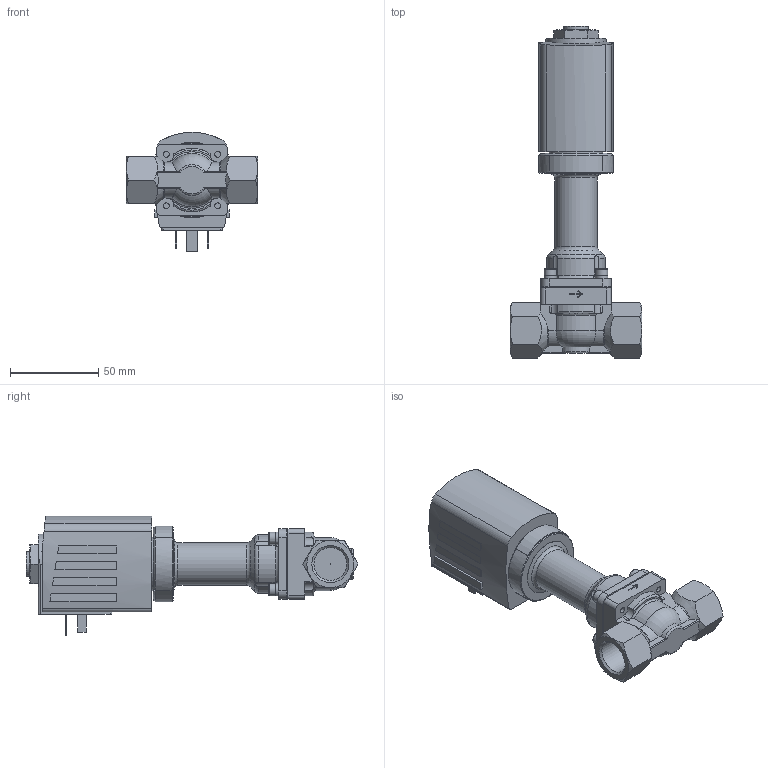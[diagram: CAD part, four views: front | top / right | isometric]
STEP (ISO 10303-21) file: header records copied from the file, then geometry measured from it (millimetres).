
FILE_DESCRIPTION(/* description */ ('STEP AP214'),/* implementation_level */ '2;1');
FILE_NAME(/* name */ '6026-352643-pluger_valve_2_2_Wege_direct-acting',/* time_stamp */ '2024-03-06T21:51:13+01:00',/* author */ ('License CC BY-ND 4.0'),/* organization */ ('CADENAS'),/* preprocessor_version */ 'ST-DEVELOPER v19.3',/* originating_system */ 'PARTsolutions',/* authorisation */ ' ');
FILE_SCHEMA (('AUTOMOTIVE_DESIGN {1 0 10303 214 3 1 1}'));
Length unit declared in the file: millimetre
Products named in the file (4): 6026-352643-pluger valve 2/2 Wege direct-acting; 6026ms centerpiece 0; 6026g-G 1/2VA-pluger valve_body; AC10ex-42SG=k-Plan-Coil
Assembly tree (3 placements, depth 2):
  6026-352643-pluger valve 2/2 Wege direct-acting
    6026ms centerpiece 0
    6026g-G 1/2VA-pluger valve_body
    AC10ex-42SG=k-Plan-Coil
Bounding box: 74.5 x 187.62 x 67.5 mm (x, y, z)
Volume: 247357.7 mm3; surface area: 42574.3 mm2
Topology: 3 solids, 3 shells, 294 faces, 726 edges, 474 vertices
Faces by surface type: plane 160, cylinder 83, torus 27, cone 24
Full cylindrical faces by diameter (mm): 0.4 x1, 2.013 x1, 3.242 x4, 4 x4, 7 x4, 7.1 x4, 7.8 x4, 14 x1, 18.631 x2, 24 x1, 30.3 x1, 32 x1, 42.3 x1
Entity records: 9977 total; most frequent: CARTESIAN_POINT 1918, DIRECTION 1370, ORIENTED_EDGE 1336, EDGE_CURVE 668, AXIS2_PLACEMENT_3D 518, VERTEX_POINT 464, EDGE_LOOP 388, FACE_BOUND 388
